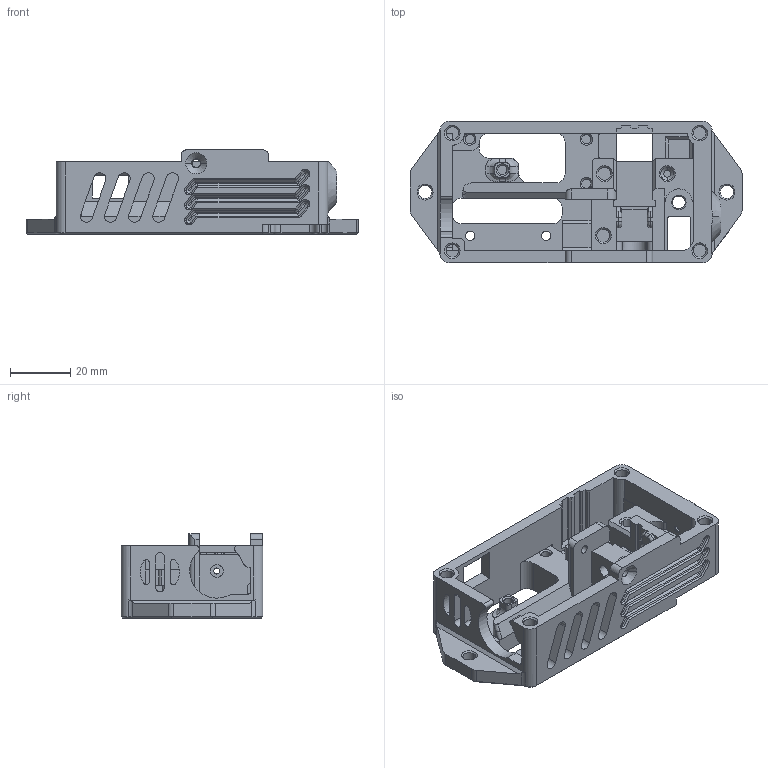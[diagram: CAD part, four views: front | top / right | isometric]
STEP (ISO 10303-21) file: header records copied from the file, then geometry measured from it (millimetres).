
FILE_DESCRIPTION((''),'2;1');
FILE_NAME('_000_9990001_13_LLL','2024-10-21T09:05:35',('Administrator'),(''),'CREO PARAMETRIC BY PTC INC, 2024063','CREO PARAMETRIC BY PTC INC, 2024063','');
FILE_SCHEMA(('CONFIG_CONTROL_DESIGN'));
Length unit declared in the file: millimetre
Products named in the file (1): _000_9990001_13_LLL
Bounding box: 110 x 47 x 28 mm (x, y, z)
Volume: 44464.1 mm3; surface area: 25441.2 mm2
Topology: 1 solids, 1 shells, 909 faces, 2456 edges, 1559 vertices
Faces by surface type: plane 452, cylinder 311, cone 126, bspline 11, torus 8, extrusion 1
Entity records: 29571 total; most frequent: CARTESIAN_POINT 6368, ORIENTED_EDGE 4912, DIRECTION 4821, EDGE_CURVE 2456, AXIS2_PLACEMENT_3D 1614, VECTOR 1593, LINE 1592, VERTEX_POINT 1559
